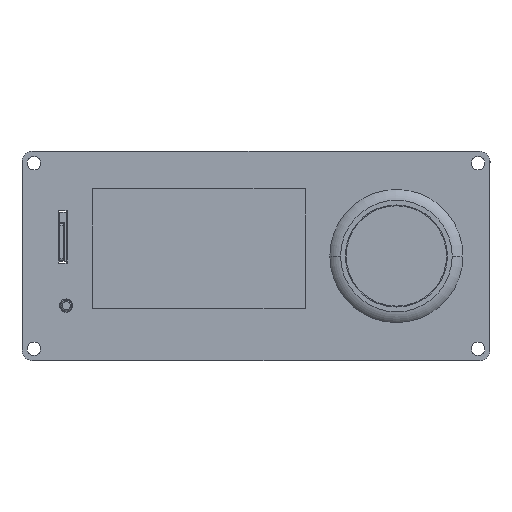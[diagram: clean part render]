
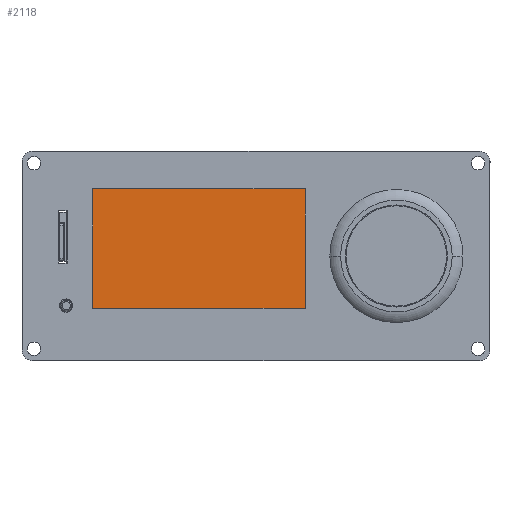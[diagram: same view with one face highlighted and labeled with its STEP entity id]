
A CAD part, top view. The second image highlights one B-rep face of the part: STEP entity #2118.
In plain terms, the highlighted planar face has unit normal (0, 0, 1).
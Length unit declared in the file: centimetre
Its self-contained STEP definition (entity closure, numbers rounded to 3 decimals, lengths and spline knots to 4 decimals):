
#769 = VECTOR ( 'NONE', #83289, 100. ) ;
#1616 = ORIENTED_EDGE ( 'NONE', *, *, #124048, .F. ) ;
#1909 = VERTEX_POINT ( 'NONE', #78587 ) ;
#2118 = ADVANCED_FACE ( 'NONE', ( #117002 ), #49440, .T. ) ;
#4167 = LINE ( 'NONE', #40500, #769 ) ;
#4337 = ORIENTED_EDGE ( 'NONE', *, *, #15406, .F. ) ;
#6330 = CARTESIAN_POINT ( 'NONE',  ( -3.075, -5.0435, 0.6398 ) ) ;
#13538 = DIRECTION ( 'NONE',  ( 1., 0., 0. ) ) ;
#13596 = VERTEX_POINT ( 'NONE', #55934 ) ;
#14982 = LINE ( 'NONE', #120463, #46863 ) ;
#15406 = EDGE_CURVE ( 'NONE', #86547, #17321, #94348, .T. ) ;
#17321 = VERTEX_POINT ( 'NONE', #112534 ) ;
#27950 = ORIENTED_EDGE ( 'NONE', *, *, #70798, .F. ) ;
#40500 = CARTESIAN_POINT ( 'NONE',  ( -3.075, -2.6335, 0.6398 ) ) ;
#46863 = VECTOR ( 'NONE', #13538, 100. ) ;
#49440 = PLANE ( 'NONE',  #109983 ) ;
#50593 = CARTESIAN_POINT ( 'NONE',  ( 4.045, -2.6335, 0.6398 ) ) ;
#55934 = CARTESIAN_POINT ( 'NONE',  ( 4.045, -0.2235, 0.6398 ) ) ;
#60301 = DIRECTION ( 'NONE',  ( 1., 0., 0. ) ) ;
#66005 = DIRECTION ( 'NONE',  ( -1., 0., 0. ) ) ;
#70798 = EDGE_CURVE ( 'NONE', #13596, #86547, #80981, .T. ) ;
#78587 = CARTESIAN_POINT ( 'NONE',  ( -3.075, -0.2235, 0.6398 ) ) ;
#80981 = LINE ( 'NONE', #50593, #106106 ) ;
#83024 = DIRECTION ( 'NONE',  ( 0., -1., 0. ) ) ;
#83289 = DIRECTION ( 'NONE',  ( 0., 1., 0. ) ) ;
#86547 = VERTEX_POINT ( 'NONE', #87119 ) ;
#87119 = CARTESIAN_POINT ( 'NONE',  ( 4.045, -5.0435, 0.6398 ) ) ;
#87587 = CARTESIAN_POINT ( 'NONE',  ( 0.485, -5.0435, 0.6398 ) ) ;
#90843 = EDGE_LOOP ( 'NONE', ( #4337, #27950, #138827, #1616 ) ) ;
#94348 = LINE ( 'NONE', #87587, #119454 ) ;
#106106 = VECTOR ( 'NONE', #83024, 100. ) ;
#109983 = AXIS2_PLACEMENT_3D ( 'NONE', #6330, #124468, #60301 ) ;
#112534 = CARTESIAN_POINT ( 'NONE',  ( -3.075, -5.0435, 0.6398 ) ) ;
#117002 = FACE_OUTER_BOUND ( 'NONE', #90843, .T. ) ;
#119454 = VECTOR ( 'NONE', #66005, 100. ) ;
#120463 = CARTESIAN_POINT ( 'NONE',  ( 0.485, -0.2235, 0.6398 ) ) ;
#124048 = EDGE_CURVE ( 'NONE', #17321, #1909, #4167, .T. ) ;
#124468 = DIRECTION ( 'NONE',  ( 0., 0., 1. ) ) ;
#131342 = EDGE_CURVE ( 'NONE', #1909, #13596, #14982, .T. ) ;
#138827 = ORIENTED_EDGE ( 'NONE', *, *, #131342, .F. ) ;
